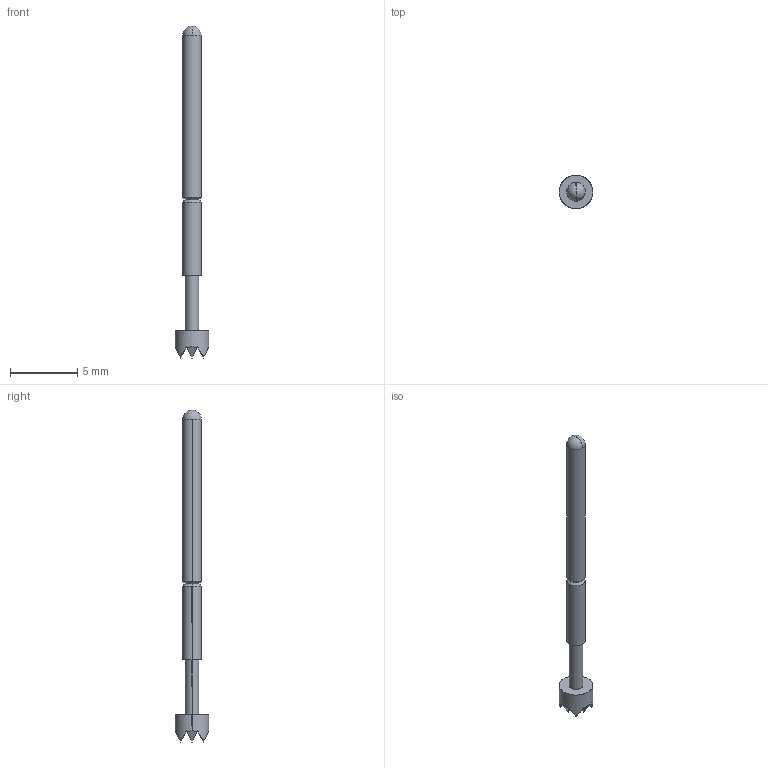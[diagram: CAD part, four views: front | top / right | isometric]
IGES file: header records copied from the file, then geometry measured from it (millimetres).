
Start section: SolidWorks IGES file using analytic representation for surfaces
Global section: file name: \\CODA-VM-SBS\RedirectedFolders\georged\My Documents\CODA CAD FILES\GENERAL PURPOSE TEST PROBES\SHORT REACH TEST PROBES\PA3\PA3H-2.5.IGS; native system: SolidWorks 2024; preprocessor: SolidWorks 2024; author: GeorgeD; date: 240710.095851; units: millimetre
Bounding box: 2.5 x 2.5 x 24.64 mm (x, y, z)
Surface area: 120.2 mm2 (no closed solid volume)
Topology: 0 solids, 0 shells, 62 faces, 419 edges, 417 vertices
Faces by surface type: bspline 48, revolution 14
